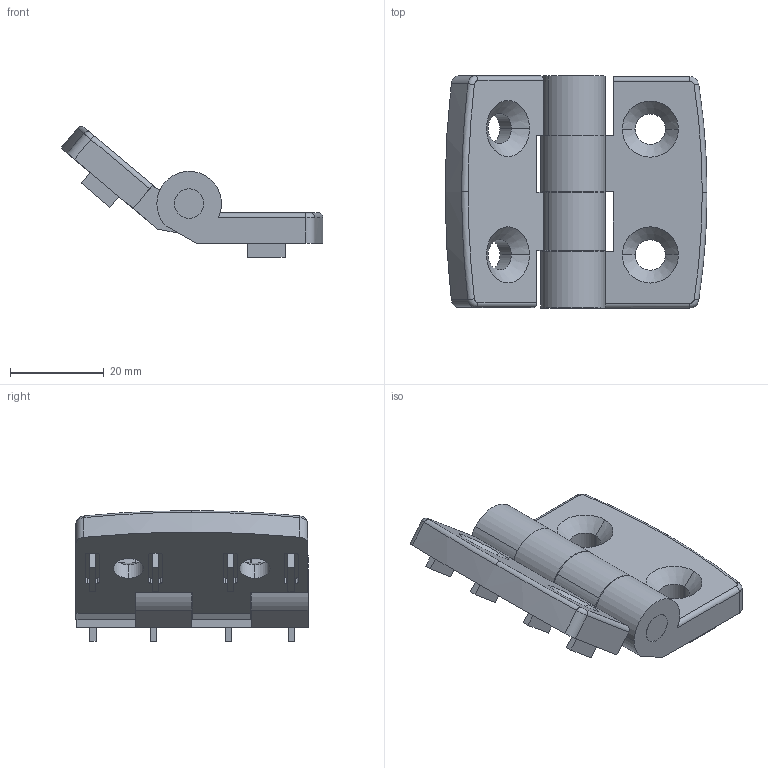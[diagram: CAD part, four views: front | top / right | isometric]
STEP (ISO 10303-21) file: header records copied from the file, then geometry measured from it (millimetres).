
FILE_DESCRIPTION (( 'STEP AP214' ), '1' );
FILE_NAME ('SNSD.30.50.97. Ïåòëÿ äâåðíàÿ àëþìèíåâàÿ 3030(E07).STEP', '2014-11-27T08:16:03', ( 'XTreme.ws' ), ( 'XTreme.ws' ), 'SwSTEP 2.0', 'SolidWorks 2014', '' );
FILE_SCHEMA (( 'AUTOMOTIVE_DESIGN' ));
Length unit declared in the file: millimetre
Products named in the file (4): SNSD.30.50.96. ﾏ琿褻(B47)E07_00; SNSD.30.50.96. Ïåòëÿ äâåðíàÿ àëþìèíåâàÿ ìàëàÿ(B47)E07_00; SNSD.30.50.96. Ïåòëÿ äâåðíàÿ àëþìèíåâàÿ 3045(B47)E07_00; SNSD.30.50.97. Ïåòëÿ äâåðíàÿ àëþìèíåâàÿ 3030(E07)
Assembly tree (3 placements, depth 2):
  SNSD.30.50.97. Ïåòëÿ äâåðíàÿ àëþìèíåâàÿ 3030(E07)
    SNSD.30.50.96. Ïåòëÿ äâåðíàÿ àëþìèíåâàÿ 3045(B47)E07_00
    SNSD.30.50.96. Ïåòëÿ äâåðíàÿ àëþìèíåâàÿ ìàëàÿ(B47)E07_00
    SNSD.30.50.96. ﾏ琿褻(B47)E07_00
Bounding box: 55.98 x 49.6 x 27.95 mm (x, y, z)
Volume: 20090.9 mm3; surface area: 11777.4 mm2
Topology: 3 solids, 3 shells, 192 faces, 494 edges, 324 vertices
Faces by surface type: plane 104, cylinder 72, torus 8, cone 8
Entity records: 6056 total; most frequent: DIRECTION 1054, CARTESIAN_POINT 1034, ORIENTED_EDGE 988, EDGE_CURVE 494, AXIS2_PLACEMENT_3D 364, VECTOR 326, LINE 326, VERTEX_POINT 324
